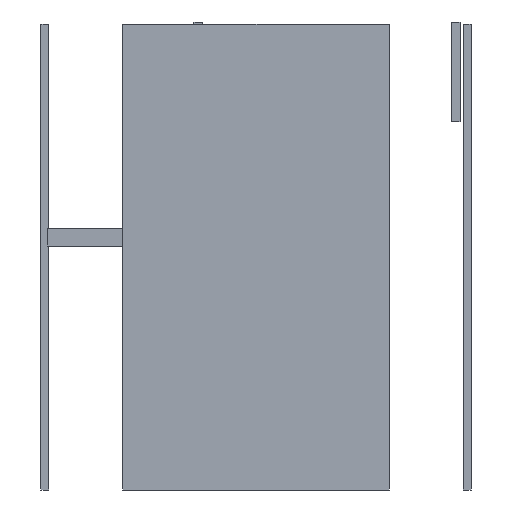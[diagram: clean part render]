
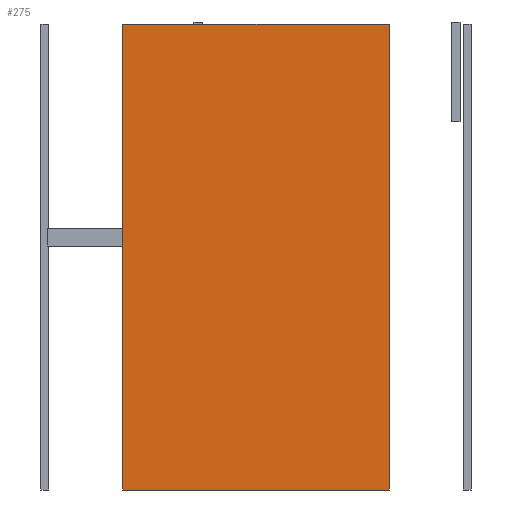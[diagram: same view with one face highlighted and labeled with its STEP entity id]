
A CAD part, front view. The second image highlights one B-rep face of the part: STEP entity #275.
In plain terms, the highlighted planar face has unit normal (0, -1, 0).
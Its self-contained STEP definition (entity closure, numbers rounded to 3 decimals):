
#59 = EDGE_CURVE('',#60,#62,#64,.T.);
#60 = VERTEX_POINT('',#61);
#61 = CARTESIAN_POINT('',(-30.,-0.85,-52.5));
#62 = VERTEX_POINT('',#63);
#63 = CARTESIAN_POINT('',(-30.,-0.85,52.5));
#64 = SURFACE_CURVE('',#65,(#69,#81),.PCURVE_S1.);
#65 = LINE('',#66,#67);
#66 = CARTESIAN_POINT('',(-30.,-0.85,-52.5));
#67 = VECTOR('',#68,1.);
#68 = DIRECTION('',(0.,0.,1.));
#69 = PCURVE('',#70,#75);
#70 = PLANE('',#71);
#71 = AXIS2_PLACEMENT_3D('',#72,#73,#74);
#72 = CARTESIAN_POINT('',(-30.,-0.85,-52.5));
#73 = DIRECTION('',(1.,0.,-0.));
#74 = DIRECTION('',(0.,0.,1.));
#75 = DEFINITIONAL_REPRESENTATION('',(#76),#80);
#76 = LINE('',#77,#78);
#77 = CARTESIAN_POINT('',(0.,0.));
#78 = VECTOR('',#79,1.);
#79 = DIRECTION('',(1.,0.));
#80 = ( GEOMETRIC_REPRESENTATION_CONTEXT(2) 
PARAMETRIC_REPRESENTATION_CONTEXT() REPRESENTATION_CONTEXT('2D SPACE',''
  ) );
#81 = PCURVE('',#82,#87);
#82 = PLANE('',#83);
#83 = AXIS2_PLACEMENT_3D('',#84,#85,#86);
#84 = CARTESIAN_POINT('',(-30.,-0.85,-52.5));
#85 = DIRECTION('',(-0.,1.,0.));
#86 = DIRECTION('',(0.,0.,1.));
#87 = DEFINITIONAL_REPRESENTATION('',(#88),#92);
#88 = LINE('',#89,#90);
#89 = CARTESIAN_POINT('',(0.,0.));
#90 = VECTOR('',#91,1.);
#91 = DIRECTION('',(1.,0.));
#92 = ( GEOMETRIC_REPRESENTATION_CONTEXT(2) 
PARAMETRIC_REPRESENTATION_CONTEXT() REPRESENTATION_CONTEXT('2D SPACE',''
  ) );
#110 = PLANE('',#111);
#111 = AXIS2_PLACEMENT_3D('',#112,#113,#114);
#112 = CARTESIAN_POINT('',(-30.,-0.85,-52.5));
#113 = DIRECTION('',(0.,0.,1.));
#114 = DIRECTION('',(1.,0.,-0.));
#164 = PLANE('',#165);
#165 = AXIS2_PLACEMENT_3D('',#166,#167,#168);
#166 = CARTESIAN_POINT('',(-30.,-0.85,52.5));
#167 = DIRECTION('',(0.,0.,1.));
#168 = DIRECTION('',(1.,0.,-0.));
#179 = EDGE_CURVE('',#180,#182,#184,.T.);
#180 = VERTEX_POINT('',#181);
#181 = CARTESIAN_POINT('',(30.,-0.85,-52.5));
#182 = VERTEX_POINT('',#183);
#183 = CARTESIAN_POINT('',(30.,-0.85,52.5));
#184 = SURFACE_CURVE('',#185,(#189,#201),.PCURVE_S1.);
#185 = LINE('',#186,#187);
#186 = CARTESIAN_POINT('',(30.,-0.85,-52.5));
#187 = VECTOR('',#188,1.);
#188 = DIRECTION('',(0.,0.,1.));
#189 = PCURVE('',#190,#195);
#190 = PLANE('',#191);
#191 = AXIS2_PLACEMENT_3D('',#192,#193,#194);
#192 = CARTESIAN_POINT('',(30.,-0.85,-52.5));
#193 = DIRECTION('',(1.,0.,-0.));
#194 = DIRECTION('',(0.,0.,1.));
#195 = DEFINITIONAL_REPRESENTATION('',(#196),#200);
#196 = LINE('',#197,#198);
#197 = CARTESIAN_POINT('',(0.,0.));
#198 = VECTOR('',#199,1.);
#199 = DIRECTION('',(1.,0.));
#200 = ( GEOMETRIC_REPRESENTATION_CONTEXT(2) 
PARAMETRIC_REPRESENTATION_CONTEXT() REPRESENTATION_CONTEXT('2D SPACE',''
  ) );
#201 = PCURVE('',#82,#202);
#202 = DEFINITIONAL_REPRESENTATION('',(#203),#207);
#203 = LINE('',#204,#205);
#204 = CARTESIAN_POINT('',(0.,60.));
#205 = VECTOR('',#206,1.);
#206 = DIRECTION('',(1.,0.));
#207 = ( GEOMETRIC_REPRESENTATION_CONTEXT(2) 
PARAMETRIC_REPRESENTATION_CONTEXT() REPRESENTATION_CONTEXT('2D SPACE',''
  ) );
#275 = ADVANCED_FACE('',(#276),#82,.F.);
#276 = FACE_BOUND('',#277,.F.);
#277 = EDGE_LOOP('',(#278,#299,#300,#321));
#278 = ORIENTED_EDGE('',*,*,#279,.F.);
#279 = EDGE_CURVE('',#60,#180,#280,.T.);
#280 = SURFACE_CURVE('',#281,(#285,#292),.PCURVE_S1.);
#281 = LINE('',#282,#283);
#282 = CARTESIAN_POINT('',(-30.,-0.85,-52.5));
#283 = VECTOR('',#284,1.);
#284 = DIRECTION('',(1.,0.,-0.));
#285 = PCURVE('',#82,#286);
#286 = DEFINITIONAL_REPRESENTATION('',(#287),#291);
#287 = LINE('',#288,#289);
#288 = CARTESIAN_POINT('',(0.,0.));
#289 = VECTOR('',#290,1.);
#290 = DIRECTION('',(0.,1.));
#291 = ( GEOMETRIC_REPRESENTATION_CONTEXT(2) 
PARAMETRIC_REPRESENTATION_CONTEXT() REPRESENTATION_CONTEXT('2D SPACE',''
  ) );
#292 = PCURVE('',#110,#293);
#293 = DEFINITIONAL_REPRESENTATION('',(#294),#298);
#294 = LINE('',#295,#296);
#295 = CARTESIAN_POINT('',(0.,0.));
#296 = VECTOR('',#297,1.);
#297 = DIRECTION('',(1.,0.));
#298 = ( GEOMETRIC_REPRESENTATION_CONTEXT(2) 
PARAMETRIC_REPRESENTATION_CONTEXT() REPRESENTATION_CONTEXT('2D SPACE',''
  ) );
#299 = ORIENTED_EDGE('',*,*,#59,.T.);
#300 = ORIENTED_EDGE('',*,*,#301,.T.);
#301 = EDGE_CURVE('',#62,#182,#302,.T.);
#302 = SURFACE_CURVE('',#303,(#307,#314),.PCURVE_S1.);
#303 = LINE('',#304,#305);
#304 = CARTESIAN_POINT('',(-30.,-0.85,52.5));
#305 = VECTOR('',#306,1.);
#306 = DIRECTION('',(1.,0.,-0.));
#307 = PCURVE('',#82,#308);
#308 = DEFINITIONAL_REPRESENTATION('',(#309),#313);
#309 = LINE('',#310,#311);
#310 = CARTESIAN_POINT('',(105.,0.));
#311 = VECTOR('',#312,1.);
#312 = DIRECTION('',(0.,1.));
#313 = ( GEOMETRIC_REPRESENTATION_CONTEXT(2) 
PARAMETRIC_REPRESENTATION_CONTEXT() REPRESENTATION_CONTEXT('2D SPACE',''
  ) );
#314 = PCURVE('',#164,#315);
#315 = DEFINITIONAL_REPRESENTATION('',(#316),#320);
#316 = LINE('',#317,#318);
#317 = CARTESIAN_POINT('',(0.,0.));
#318 = VECTOR('',#319,1.);
#319 = DIRECTION('',(1.,0.));
#320 = ( GEOMETRIC_REPRESENTATION_CONTEXT(2) 
PARAMETRIC_REPRESENTATION_CONTEXT() REPRESENTATION_CONTEXT('2D SPACE',''
  ) );
#321 = ORIENTED_EDGE('',*,*,#179,.F.);
